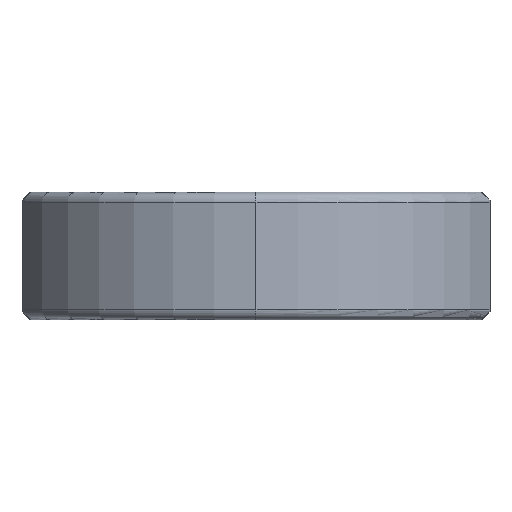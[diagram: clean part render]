
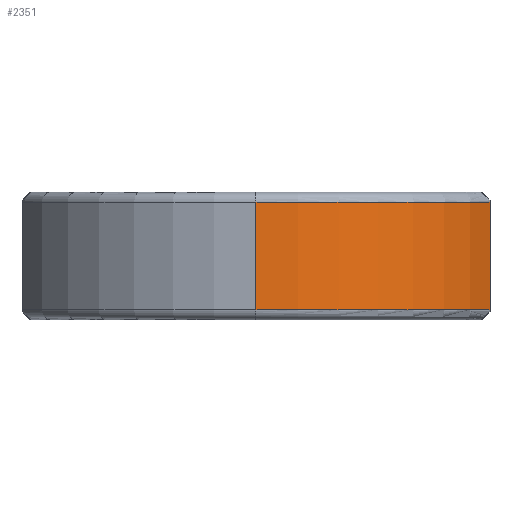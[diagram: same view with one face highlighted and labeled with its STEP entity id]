
A CAD part, left-side view. The second image highlights one B-rep face of the part: STEP entity #2351.
In plain terms, the highlighted cylindrical face has radius 30 mm (diameter 60 mm), a partial arc.
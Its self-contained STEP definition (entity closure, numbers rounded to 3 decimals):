
#7 = FACE_OUTER_BOUND ( 'NONE', #2337, .T. ) ;
#8 = CARTESIAN_POINT ( 'NONE',  ( 0., 0., 0. ) ) ;
#207 = EDGE_CURVE ( 'NONE', #3072, #1770, #2636, .T. ) ;
#320 = EDGE_CURVE ( 'NONE', #1536, #3072, #362, .T. ) ;
#362 = LINE ( 'NONE', #2698, #1612 ) ;
#520 = CARTESIAN_POINT ( 'NONE',  ( -30., 0., 0. ) ) ;
#626 = CARTESIAN_POINT ( 'NONE',  ( -11.99, -27.5, 1.2 ) ) ;
#646 = AXIS2_PLACEMENT_3D ( 'NONE', #1253, #2486, #1998 ) ;
#669 = DIRECTION ( 'NONE',  ( -1., 0., 0. ) ) ;
#674 = ORIENTED_EDGE ( 'NONE', *, *, #320, .F. ) ;
#708 = VERTEX_POINT ( 'NONE', #3057 ) ;
#880 = LINE ( 'NONE', #520, #2437 ) ;
#896 = ORIENTED_EDGE ( 'NONE', *, *, #2535, .T. ) ;
#1058 = CIRCLE ( 'NONE', #646, 30. ) ;
#1110 = AXIS2_PLACEMENT_3D ( 'NONE', #8, #1911, #2671 ) ;
#1253 = CARTESIAN_POINT ( 'NONE',  ( 0., 0., 13.8 ) ) ;
#1369 = CARTESIAN_POINT ( 'NONE',  ( 0., 0., 1.2 ) ) ;
#1373 = ORIENTED_EDGE ( 'NONE', *, *, #207, .F. ) ;
#1536 = VERTEX_POINT ( 'NONE', #1590 ) ;
#1590 = CARTESIAN_POINT ( 'NONE',  ( -11.99, -27.5, 13.8 ) ) ;
#1612 = VECTOR ( 'NONE', #2450, 1000. ) ;
#1676 = EDGE_CURVE ( 'NONE', #708, #1770, #880, .T. ) ;
#1770 = VERTEX_POINT ( 'NONE', #2568 ) ;
#1911 = DIRECTION ( 'NONE',  ( 0., 0., -1. ) ) ;
#1998 = DIRECTION ( 'NONE',  ( -1., 0., 0. ) ) ;
#2114 = DIRECTION ( 'NONE',  ( 0., 0., -1. ) ) ;
#2337 = EDGE_LOOP ( 'NONE', ( #896, #2380, #1373, #674 ) ) ;
#2351 = ADVANCED_FACE ( 'NONE', ( #7 ), #2707, .T. ) ;
#2380 = ORIENTED_EDGE ( 'NONE', *, *, #1676, .T. ) ;
#2437 = VECTOR ( 'NONE', #2452, 1000. ) ;
#2450 = DIRECTION ( 'NONE',  ( 0., 0., -1. ) ) ;
#2452 = DIRECTION ( 'NONE',  ( 0., 0., -1. ) ) ;
#2486 = DIRECTION ( 'NONE',  ( 0., 0., -1. ) ) ;
#2535 = EDGE_CURVE ( 'NONE', #1536, #708, #1058, .T. ) ;
#2568 = CARTESIAN_POINT ( 'NONE',  ( -30., 0., 1.2 ) ) ;
#2636 = CIRCLE ( 'NONE', #3086, 30. ) ;
#2671 = DIRECTION ( 'NONE',  ( -1., 0., 0. ) ) ;
#2698 = CARTESIAN_POINT ( 'NONE',  ( -11.99, -27.5, 15. ) ) ;
#2707 = CYLINDRICAL_SURFACE ( 'NONE', #1110, 30. ) ;
#3057 = CARTESIAN_POINT ( 'NONE',  ( -30., 0., 13.8 ) ) ;
#3072 = VERTEX_POINT ( 'NONE', #626 ) ;
#3086 = AXIS2_PLACEMENT_3D ( 'NONE', #1369, #2114, #669 ) ;
